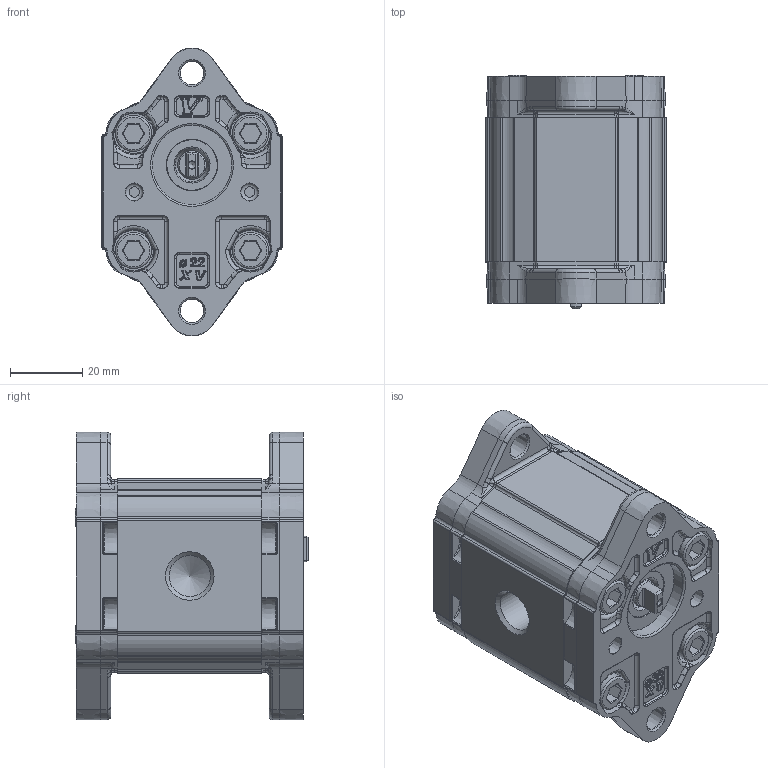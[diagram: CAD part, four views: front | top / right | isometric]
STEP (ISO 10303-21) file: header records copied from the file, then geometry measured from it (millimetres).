
FILE_DESCRIPTION(/* description */ ('Unknown'),/* implementation_level */ '2;1');
FILE_NAME(/* name */ 'X0I1121MBBA',/* time_stamp */ '2026-05-25T17:04:41+02:00',/* author */ ('Unknown'),/* organization */ ('Unknown'),/* preprocessor_version */ 'ST-DEVELOPER v16.7',/* originating_system */ 'Solid Edge',/* authorisation */ 'Unknown');
FILE_SCHEMA (('AUTOMOTIVE_DESIGN {1 0 10303 214 3 1 1}'));
Products named in the file (5): X0I1121MBBA; X0I21; 0M; X0BBH40; XI001-A
Assembly tree (4 placements, depth 2):
  X0I1121MBBA
    X0I21
    0M
    X0BBH40
    XI001-A
Bounding box: 50 x 64.8 x 79.95 mm (x, y, z)
Volume: 143781.7 mm3; surface area: 40577.3 mm2
Topology: 5 solids, 5 shells, 1594 faces, 4028 edges, 2404 vertices
Faces by surface type: cylinder 501, plane 418, bspline 294, cone 220, torus 105, sphere 56
Full cylindrical faces by diameter (mm): 2 x2, 6 x12, 6.5 x2, 6.518 x8, 6.545 x4, 7.16 x2, 7.5 x2, 7.92 x2, 10 x4, 11.445 x2, 13.178 x1, 14 x2, 22 x2
Entity records: 89539 total; most frequent: CARTESIAN_POINT 43465, ORIENTED_EDGE 7476, DIRECTION 6936, EDGE_CURVE 3738, AXIS2_PLACEMENT_3D 2863, VERTEX_POINT 2330, FACE_BOUND 1838, EDGE_LOOP 1834
